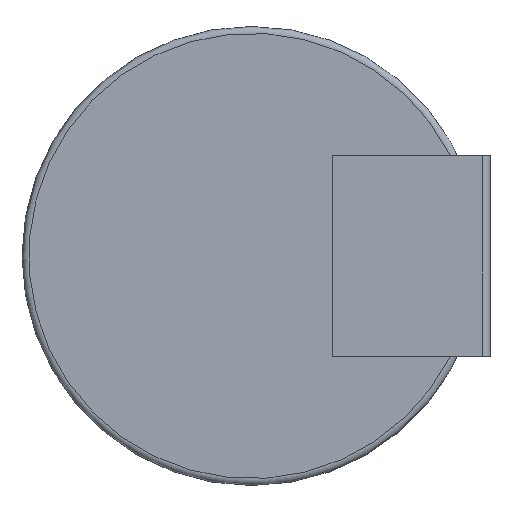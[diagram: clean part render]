
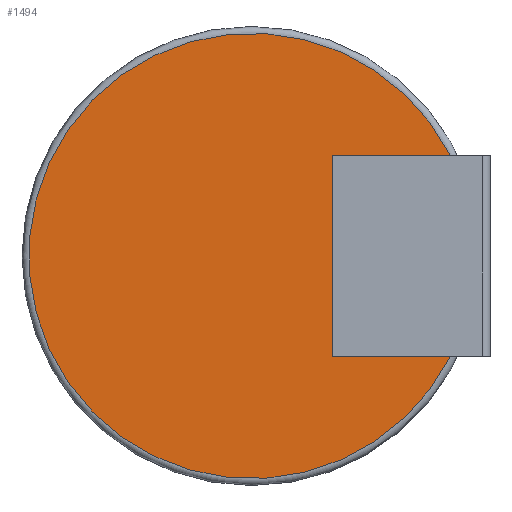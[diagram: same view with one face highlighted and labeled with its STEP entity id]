
A CAD part, top view. The second image highlights one B-rep face of the part: STEP entity #1494.
In plain terms, the highlighted planar face has unit normal (0, 0, 1).
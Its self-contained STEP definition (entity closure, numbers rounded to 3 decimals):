
#67=CIRCLE('',#1586,12.052);
#237=ORIENTED_EDGE('',*,*,#496,.T.);
#238=ORIENTED_EDGE('',*,*,#499,.T.);
#239=ORIENTED_EDGE('',*,*,#500,.T.);
#240=ORIENTED_EDGE('',*,*,#412,.F.);
#412=EDGE_CURVE('',#564,#565,#665,.T.);
#496=EDGE_CURVE('',#564,#631,#67,.T.);
#499=EDGE_CURVE('',#631,#633,#727,.T.);
#500=EDGE_CURVE('',#633,#565,#728,.T.);
#564=VERTEX_POINT('',#2000);
#565=VERTEX_POINT('',#2002);
#631=VERTEX_POINT('',#2172);
#633=VERTEX_POINT('',#2180);
#665=LINE('',#2001,#787);
#727=LINE('',#2179,#849);
#728=LINE('',#2181,#850);
#787=VECTOR('',#1672,1000.);
#849=VECTOR('',#1830,1000.);
#850=VECTOR('',#1831,1000.);
#913=EDGE_LOOP('',(#237,#238,#239,#240));
#979=FACE_BOUND('',#913,.T.);
#1029=PLANE('',#1588);
#1494=ADVANCED_FACE('',(#979),#1029,.T.);
#1586=AXIS2_PLACEMENT_3D('',#2173,#1822,#1823);
#1588=AXIS2_PLACEMENT_3D('',#2178,#1828,#1829);
#1672=DIRECTION('',(-1.,0.,0.));
#1822=DIRECTION('',(0.,0.,1.));
#1823=DIRECTION('',(1.,0.,0.));
#1828=DIRECTION('',(0.,0.,1.));
#1829=DIRECTION('',(1.,0.,0.));
#1830=DIRECTION('',(-1.,0.,0.));
#1831=DIRECTION('',(0.,1.,0.));
#2000=CARTESIAN_POINT('',(10.762,5.425,3.886));
#2001=CARTESIAN_POINT('',(12.376,5.425,3.886));
#2002=CARTESIAN_POINT('',(4.385,5.425,3.886));
#2172=CARTESIAN_POINT('',(10.762,-5.425,3.886));
#2173=CARTESIAN_POINT('',(0.,0.,3.886));
#2178=CARTESIAN_POINT('',(0.,0.,3.886));
#2179=CARTESIAN_POINT('',(12.376,-5.425,3.886));
#2180=CARTESIAN_POINT('',(4.385,-5.425,3.886));
#2181=CARTESIAN_POINT('',(4.385,-5.425,3.886));
